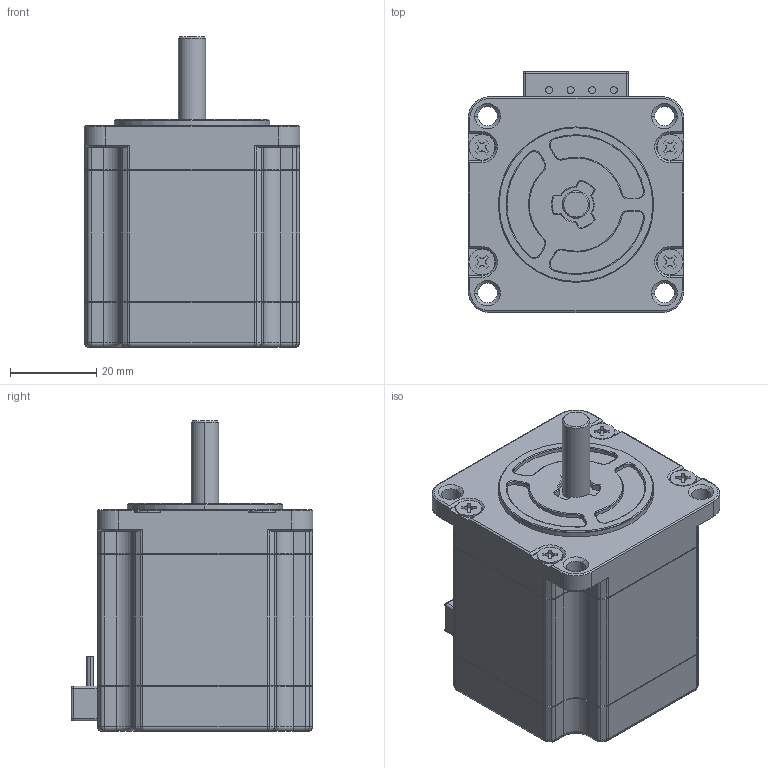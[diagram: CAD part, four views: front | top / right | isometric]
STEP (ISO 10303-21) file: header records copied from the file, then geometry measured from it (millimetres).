
FILE_DESCRIPTION (( 'STEP AP203' ), '1' );
FILE_NAME ('103H6703-5040.STEP', '2012-06-26T10:35:03', ( 'sanyodenki-admin' ), ( '' ), 'SwSTEP 2.0', 'SolidWorks 2011', '' );
FILE_SCHEMA (( 'CONFIG_CONTROL_DESIGN' ));
Length unit declared in the file: millimetre
Products named in the file (1): 103H6703-5040
Bounding box: 50 x 56 x 71.9 mm (x, y, z)
Volume: 117255.8 mm3; surface area: 16055.8 mm2
Topology: 1 solids, 1 shells, 600 faces, 1481 edges, 899 vertices
Faces by surface type: plane 218, cylinder 203, cone 111, torus 36, sphere 20, bspline 12
Entity records: 18032 total; most frequent: CARTESIAN_POINT 3608, DIRECTION 3154, ORIENTED_EDGE 2938, EDGE_CURVE 1469, AXIS2_PLACEMENT_3D 1184, VERTEX_POINT 899, VECTOR 786, LINE 786
